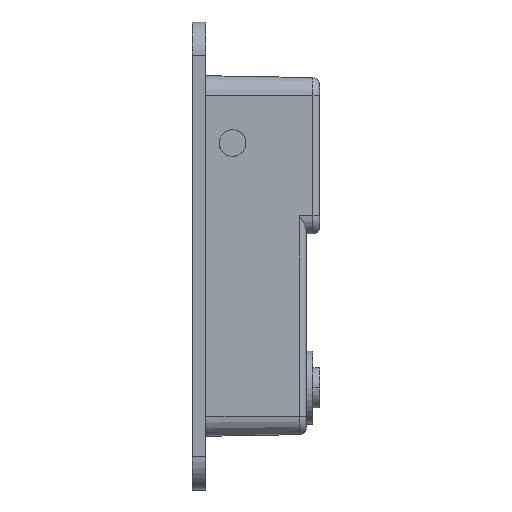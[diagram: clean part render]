
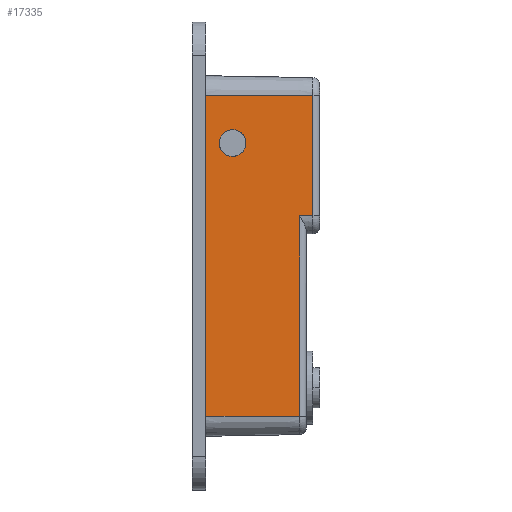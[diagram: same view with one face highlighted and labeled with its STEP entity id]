
A CAD part, left-side view. The second image highlights one B-rep face of the part: STEP entity #17335.
In plain terms, the highlighted planar face has unit normal (-1, -0.018, 0).
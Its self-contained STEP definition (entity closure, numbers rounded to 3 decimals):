
#1066 = CARTESIAN_POINT ( 'NONE',  ( -46.686, -18.017, 24. ) ) ;
#1259 = CARTESIAN_POINT ( 'NONE',  ( -46.721, -16.017, 6. ) ) ;
#1493 = VERTEX_POINT ( 'NONE', #20980 ) ;
#1519 = CARTESIAN_POINT ( 'NONE',  ( -46.896, -6., 18.894 ) ) ;
#1722 = EDGE_CURVE ( 'NONE', #1493, #2018, #30540, .T. ) ;
#2018 = VERTEX_POINT ( 'NONE', #1066 ) ;
#2112 = VECTOR ( 'NONE', #22243, 1000. ) ;
#2171 = VERTEX_POINT ( 'NONE', #15098 ) ;
#2367 = CARTESIAN_POINT ( 'NONE',  ( -46.965, -2., 14.894 ) ) ;
#3317 = CARTESIAN_POINT ( 'NONE',  ( -46.686, -18.017, 10. ) ) ;
#3580 =( BOUNDED_CURVE ( )  B_SPLINE_CURVE ( 3, ( #24486, #19694, #2367, #26884 ),
 .UNSPECIFIED., .F., .F. ) 
 B_SPLINE_CURVE_WITH_KNOTS ( ( 4, 4 ),
 ( 1.571, 4.712 ),
 .UNSPECIFIED. ) 
 CURVE ( )  GEOMETRIC_REPRESENTATION_ITEM ( )  RATIONAL_B_SPLINE_CURVE ( ( 1., 0.333, 0.333, 1. ) ) 
 REPRESENTATION_ITEM ( '' )  );
#4173 = DIRECTION ( 'NONE',  ( -1., -0.017, 0. ) ) ;
#4256 = VECTOR ( 'NONE', #18144, 1000. ) ;
#4271 = EDGE_CURVE ( 'NONE', #24604, #7803, #8360, .T. ) ;
#4760 = CARTESIAN_POINT ( 'NONE',  ( -47., -0.035, 6. ) ) ;
#5593 = EDGE_CURVE ( 'NONE', #2171, #15289, #25288, .T. ) ;
#7437 = VECTOR ( 'NONE', #13375, 1000. ) ;
#7766 = FACE_OUTER_BOUND ( 'NONE', #19975, .T. ) ;
#7803 = VERTEX_POINT ( 'NONE', #30950 ) ;
#7918 = ORIENTED_EDGE ( 'NONE', *, *, #13979, .F. ) ;
#8203 = ORIENTED_EDGE ( 'NONE', *, *, #5593, .F. ) ;
#8220 = CARTESIAN_POINT ( 'NONE',  ( -46.826, -10., 18.894 ) ) ;
#8360 = LINE ( 'NONE', #25172, #4256 ) ;
#8469 = DIRECTION ( 'NONE',  ( 0., 0., 1. ) ) ;
#8545 = VERTEX_POINT ( 'NONE', #18016 ) ;
#9917 = LINE ( 'NONE', #27187, #20685 ) ;
#10827 = VECTOR ( 'NONE', #28391, 1000. ) ;
#10960 = FACE_BOUND ( 'NONE', #24614, .T. ) ;
#12730 = PLANE ( 'NONE',  #15095 ) ;
#13140 = CARTESIAN_POINT ( 'NONE',  ( -46.965, -2., 24. ) ) ;
#13375 = DIRECTION ( 'NONE',  ( -0.017, 1., 0. ) ) ;
#13671 = EDGE_CURVE ( 'NONE', #8545, #29081, #28548, .T. ) ;
#13979 = EDGE_CURVE ( 'NONE', #1493, #29081, #14704, .T. ) ;
#14131 = DIRECTION ( 'NONE',  ( 0.017, -1., 0. ) ) ;
#14704 = LINE ( 'NONE', #4760, #2112 ) ;
#15095 = AXIS2_PLACEMENT_3D ( 'NONE', #30627, #4173, #14131 ) ;
#15098 = CARTESIAN_POINT ( 'NONE',  ( -46.896, -6., 14.894 ) ) ;
#15289 = VERTEX_POINT ( 'NONE', #1519 ) ;
#15351 = ORIENTED_EDGE ( 'NONE', *, *, #15878, .T. ) ;
#15565 = CARTESIAN_POINT ( 'NONE',  ( -46.896, -6., 14.894 ) ) ;
#15878 = EDGE_CURVE ( 'NONE', #2018, #24604, #9917, .T. ) ;
#16036 = CARTESIAN_POINT ( 'NONE',  ( -46.826, -10., 14.894 ) ) ;
#16328 = VECTOR ( 'NONE', #8469, 1000. ) ;
#17277 = ORIENTED_EDGE ( 'NONE', *, *, #1722, .T. ) ;
#17335 = ADVANCED_FACE ( 'NONE', ( #10960, #7766 ), #12730, .T. ) ;
#18016 = CARTESIAN_POINT ( 'NONE',  ( -46.721, -16.017, -24. ) ) ;
#18144 = DIRECTION ( 'NONE',  ( 0., 0., -1. ) ) ;
#18325 = CARTESIAN_POINT ( 'NONE',  ( -46.896, -6., 18.894 ) ) ;
#18376 = ORIENTED_EDGE ( 'NONE', *, *, #28900, .F. ) ;
#19694 = CARTESIAN_POINT ( 'NONE',  ( -46.965, -2., 18.894 ) ) ;
#19975 = EDGE_LOOP ( 'NONE', ( #15351, #29021, #26444, #21233, #7918, #17277 ) ) ;
#20685 = VECTOR ( 'NONE', #26710, 1000. ) ;
#20980 = CARTESIAN_POINT ( 'NONE',  ( -46.686, -18.017, 6. ) ) ;
#21233 = ORIENTED_EDGE ( 'NONE', *, *, #13671, .T. ) ;
#22243 = DIRECTION ( 'NONE',  ( -0.017, 1., 0. ) ) ;
#23154 = CARTESIAN_POINT ( 'NONE',  ( -46.721, -16.017, 6. ) ) ;
#23156 = CARTESIAN_POINT ( 'NONE',  ( -47., -0.035, -24. ) ) ;
#24486 = CARTESIAN_POINT ( 'NONE',  ( -46.896, -6., 18.894 ) ) ;
#24604 = VERTEX_POINT ( 'NONE', #13140 ) ;
#24614 = EDGE_LOOP ( 'NONE', ( #8203, #18376 ) ) ;
#25172 = CARTESIAN_POINT ( 'NONE',  ( -46.965, -2., 10. ) ) ;
#25288 =( BOUNDED_CURVE ( )  B_SPLINE_CURVE ( 3, ( #15565, #16036, #8220, #18325 ),
 .UNSPECIFIED., .F., .F. ) 
 B_SPLINE_CURVE_WITH_KNOTS ( ( 4, 4 ),
 ( 4.712, 7.854 ),
 .UNSPECIFIED. ) 
 CURVE ( )  GEOMETRIC_REPRESENTATION_ITEM ( )  RATIONAL_B_SPLINE_CURVE ( ( 1., 0.333, 0.333, 1. ) ) 
 REPRESENTATION_ITEM ( '' )  );
#25297 = EDGE_CURVE ( 'NONE', #8545, #7803, #30187, .T. ) ;
#26444 = ORIENTED_EDGE ( 'NONE', *, *, #25297, .F. ) ;
#26710 = DIRECTION ( 'NONE',  ( -0.017, 1., 0. ) ) ;
#26884 = CARTESIAN_POINT ( 'NONE',  ( -46.896, -6., 14.894 ) ) ;
#27187 = CARTESIAN_POINT ( 'NONE',  ( -47., -0.035, 24. ) ) ;
#28391 = DIRECTION ( 'NONE',  ( 0., 0., 1. ) ) ;
#28548 = LINE ( 'NONE', #23154, #10827 ) ;
#28900 = EDGE_CURVE ( 'NONE', #15289, #2171, #3580, .T. ) ;
#29021 = ORIENTED_EDGE ( 'NONE', *, *, #4271, .T. ) ;
#29081 = VERTEX_POINT ( 'NONE', #1259 ) ;
#30187 = LINE ( 'NONE', #23156, #7437 ) ;
#30540 = LINE ( 'NONE', #3317, #16328 ) ;
#30627 = CARTESIAN_POINT ( 'NONE',  ( -47., -0.035, 10. ) ) ;
#30950 = CARTESIAN_POINT ( 'NONE',  ( -46.965, -2., -24. ) ) ;
